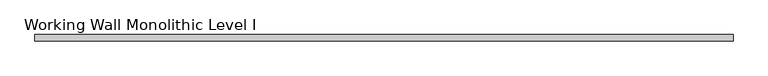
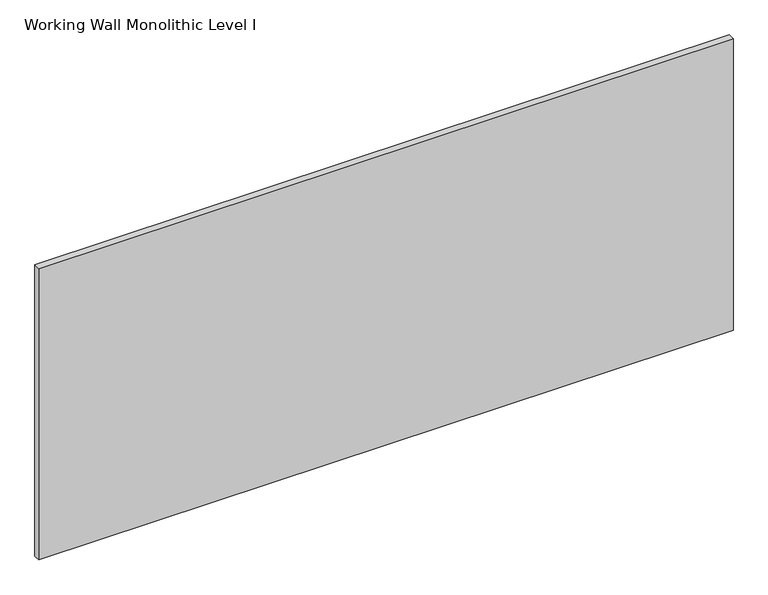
"""IFC4 building model written with IfcOpenShell, lengths in millimetres: proxy geometry, Panel-Fascia-Teknion-Altos-Landscape : Working Wall Monolithic Level I."""

from ifc_helpers import new_model, si_unit, frame, origin, place, context, project, spatial, polyline, outline, extrude, source, transform, mapped, element, save


def working_wall_monolithic_level_i_3b1bc392(model_context):
    return source(origin(), model_context, "Body", "SweptSolid", [
        extrude(outline(polyline([(1012.8305563, 9.525), (1012.8305563, -9.525), (-1012.8305562, -9.525), (-1012.8305562, 9.525), (1012.8305563, 9.525)])), frame((0.0, 0.0, 3.175), z_axis=(0.0, 0.0, 1.0), x_axis=(1.0, 0.0, 0.0)), (0.0, 0.0, 1.0), 898.525),
    ])


if __name__ == "__main__":
    model = new_model("IFC4")
    model_context = context("Model", 3, world=origin())
    ifc_project = project(units=[si_unit("LENGTHUNIT", "METRE", prefix="MILLI")], contexts=[model_context])
    site = spatial("IfcSite", under=ifc_project)
    building = spatial("IfcBuilding", under=site)
    placement = place(None, origin())
    working_wall_monolithic_level_i_shape = working_wall_monolithic_level_i_3b1bc392(model_context)
    element("IfcBuildingElementProxy", 1, Name="Panel-Fascia-Teknion-Altos-Landscape : Working Wall Monolithic Level I", ObjectType="Panel-Fascia-Teknion-Altos-Landscape : Working Wall Monolithic Level I", at=placement, inside=building, context=model_context, shape_type="MappedRepresentation", body=[
        mapped(working_wall_monolithic_level_i_shape, transform((0.0, 0.0, 0.0), x_axis=(1.0, 0.0, 0.0), y_axis=(0.0, 1.0, 0.0), z_axis=(0.0, 0.0, 1.0))),
    ])
    save(model, "model.ifc")
